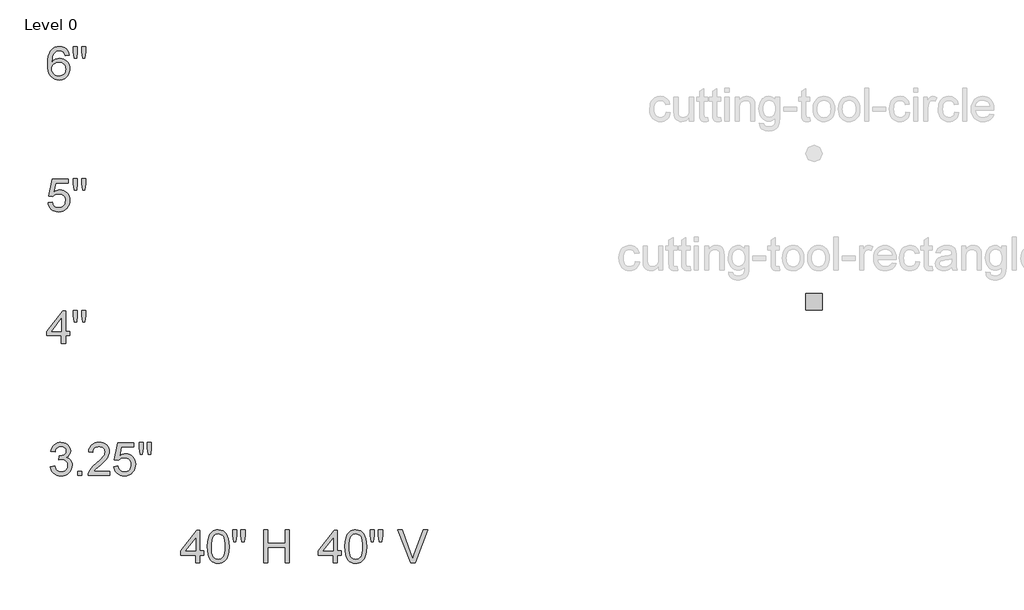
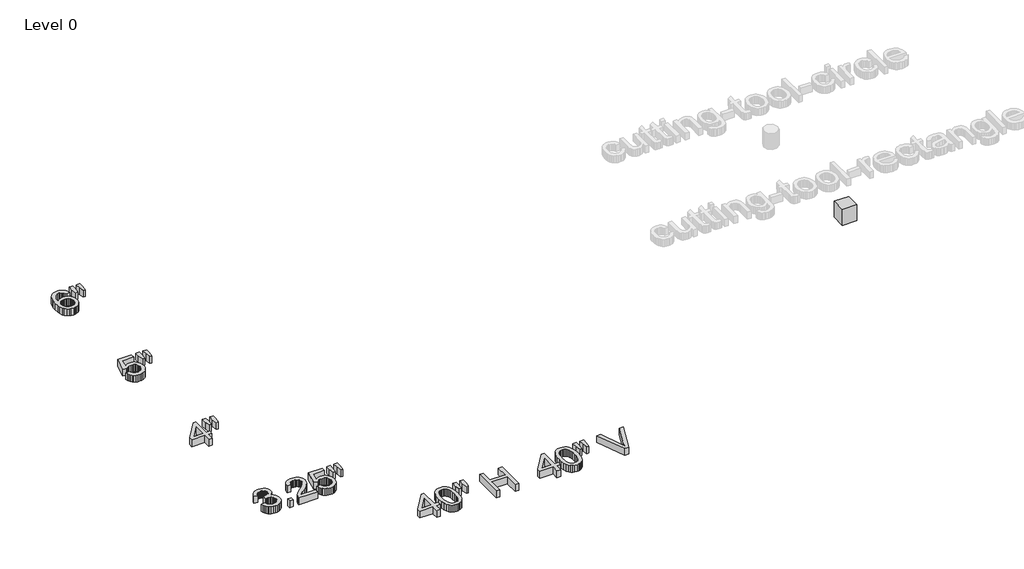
# One storey, part 1 of 3: 7 proxies.
"""IFC4 building model written with IfcOpenShell, lengths in millimetres."""

import ifcopenshell
import ifcopenshell.guid

model = None  # the IFC model being written
_history = None  # IfcOwnerHistory: only IFC2X3 demands one
_inside = {}  # id of a spatial element -> (the spatial element, [elements in it])
_under = {}  # id of a project, library or spatial element -> (it, [spatial elements below it])
_declared = {}  # id of a project -> (the project, [libraries it declares])
_typed = {}  # id of a type object -> (the type object, [elements of that type])
_made_of = {}  # id of a material, layer set ... -> (it, [elements and type objects made of it])


def new_model(schema):
    """Start an empty IFC model of exactly this schema.

    Asked for "IFC4X3", IfcOpenShell would pick the latest addendum, in which some entities
    have other attributes; the version numbers below select the first issue.
    IFC2X3 requires an IfcOwnerHistory on every rooted entity: one is made here for all.
    """
    global model, _history
    if schema == "IFC4X3":
        model = ifcopenshell.file(schema_version=(4, 3, 0, 0))
    else:
        model = ifcopenshell.file(schema=schema)
    _inside.clear()
    _under.clear()
    _declared.clear()
    _typed.clear()
    _made_of.clear()
    _history = None
    if model.schema == "IFC2X3":
        org = make("IfcOrganization", Name="unknown")
        user = make(
            "IfcPersonAndOrganization",
            ThePerson=make("IfcPerson", FamilyName="unknown"),
            TheOrganization=org,
        )
        app = make(
            "IfcApplication",
            ApplicationDeveloper=org,
            Version="unknown",
            ApplicationFullName="unknown",
            ApplicationIdentifier="unknown",
        )
        _history = make(
            "IfcOwnerHistory",
            OwningUser=user,
            OwningApplication=app,
            ChangeAction="ADDED",
            CreationDate=0,
        )
    return model


def make(cls, **values):
    """One entity of the class cls with the attributes given. An attribute that is None is left unset."""
    return model.create_entity(
        cls, **{name: value for name, value in values.items() if value is not None}
    )


def rooted(cls, **values):
    """An entity with a GlobalId (a new one), such as an element, a storey or a relation."""
    return make(cls, GlobalId=ifcopenshell.guid.new(), OwnerHistory=_history, **values)


def si_unit(unit_type, name, prefix=None):
    """IfcSIUnit, for example si_unit("LENGTHUNIT", "METRE", prefix="MILLI")."""
    return make("IfcSIUnit", UnitType=unit_type, Prefix=prefix, Name=name)


def assignment(units):
    """IfcUnitAssignment: the units of a project."""
    return None if units is None else make("IfcUnitAssignment", Units=units)


def point(xyz):
    """IfcCartesianPoint."""
    return None if xyz is None else make("IfcCartesianPoint", Coordinates=xyz)


def direction(xyz):
    """IfcDirection."""
    return None if xyz is None else make("IfcDirection", DirectionRatios=xyz)


def frame(location, z_axis=None, x_axis=None):
    """IfcAxis2Placement3D, a coordinate frame: its origin and axes. An axis left out is left unset."""
    return make(
        "IfcAxis2Placement3D",
        Location=point(location),
        Axis=direction(z_axis),
        RefDirection=direction(x_axis),
    )


def origin():
    """The frame at (0, 0, 0) with its axes left unset."""
    return frame((0.0, 0.0, 0.0))


def origin_with_axes():
    """The frame at (0, 0, 0) with the z axis (0, 0, 1) and the x axis (1, 0, 0) written out."""
    return frame((0.0, 0.0, 0.0), z_axis=(0.0, 0.0, 1.0), x_axis=(1.0, 0.0, 0.0))


def place(relative_to, where):
    """IfcLocalPlacement: puts the frame where relative to a parent placement (None: the world)."""
    return make(
        "IfcLocalPlacement", PlacementRelTo=relative_to, RelativePlacement=where
    )


def context(
    kind, dimensions, precision=None, world=None, true_north=None, identifier=None
):
    """IfcGeometricRepresentationContext, for example the 3D "Model" context."""
    return make(
        "IfcGeometricRepresentationContext",
        ContextIdentifier=identifier,
        ContextType=kind,
        CoordinateSpaceDimension=dimensions,
        Precision=precision,
        WorldCoordinateSystem=world,
        TrueNorth=true_north,
    )


def project(units=None, contexts=None):
    """IfcProject with its units and contexts."""
    return rooted(
        "IfcProject",
        Name="project",
        RepresentationContexts=contexts,
        UnitsInContext=assignment(units),
    )


def spatial(cls, under=None, at=None, **own):
    """A site, building, storey or space (cls), placed at a placement, below another one or the project."""
    s = rooted(cls, ObjectPlacement=at, **own)
    if under is not None:
        _under.setdefault(under.id(), (under, []))[1].append(s)
    return s


def polyline(points):
    """IfcPolyline through the points."""
    return make("IfcPolyline", Points=[point(p) for p in points])


def outline(outer, holes=None, kind="AREA"):
    """IfcArbitraryClosedProfileDef: a profile drawn as a closed curve; with holes, ...WithVoids."""
    if holes is None:
        return make("IfcArbitraryClosedProfileDef", ProfileType=kind, OuterCurve=outer)
    return make(
        "IfcArbitraryProfileDefWithVoids",
        ProfileType=kind,
        OuterCurve=outer,
        InnerCurves=holes,
    )


def extrude(swept, where, along, depth):
    """IfcExtrudedAreaSolid: the profile swept, set in the frame where, extruded along a direction by depth."""
    return make(
        "IfcExtrudedAreaSolid",
        SweptArea=swept,
        Position=where,
        ExtrudedDirection=direction(along),
        Depth=depth,
    )


def shape(context_of_items, identifier, shape_type, items):
    """IfcShapeRepresentation: the items that make up one representation, for example the "Body"."""
    return make(
        "IfcShapeRepresentation",
        ContextOfItems=context_of_items,
        RepresentationIdentifier=identifier,
        RepresentationType=shape_type,
        Items=items,
    )


def source(mapping_origin, context_of_items, identifier, shape_type, items):
    """IfcRepresentationMap: a shape defined once, which mapped items show again and again."""
    return make(
        "IfcRepresentationMap",
        MappingOrigin=mapping_origin,
        MappedRepresentation=shape(context_of_items, identifier, shape_type, items),
    )


def transform(
    local_origin,
    x_axis=None,
    y_axis=None,
    z_axis=None,
    scale=None,
    scale2=None,
    scale3=None,
    uniform=True,
):
    """IfcCartesianTransformationOperator3D, or its non-uniform kind. x_axis, y_axis, z_axis: its Axis1, 2, 3."""
    if uniform:
        return make(
            "IfcCartesianTransformationOperator3D",
            Axis1=direction(x_axis),
            Axis2=direction(y_axis),
            LocalOrigin=point(local_origin),
            Scale=scale,
            Axis3=direction(z_axis),
        )
    return make(
        "IfcCartesianTransformationOperator3DnonUniform",
        Axis1=direction(x_axis),
        Axis2=direction(y_axis),
        LocalOrigin=point(local_origin),
        Scale=scale,
        Axis3=direction(z_axis),
        Scale2=scale2,
        Scale3=scale3,
    )


def mapped(mapping_source, mapping_target):
    """IfcMappedItem: shows the shape of a source again, moved by a transform."""
    return make(
        "IfcMappedItem", MappingSource=mapping_source, MappingTarget=mapping_target
    )


def made_of(thing, what):
    """Note that an element or type object is made of a material, layer set ...; save() writes the relation."""
    if what is not None:
        _made_of.setdefault(what.id(), (what, []))[1].append(thing)
    return thing


def element(
    cls,
    number,
    at=None,
    inside=None,
    cuts=None,
    type_object=None,
    material=None,
    context=None,
    identifier="Body",
    shape_type=None,
    held_by="IfcProductDefinitionShape",
    body=None,
    shapes=None,
    **own,
):
    """One element of the class cls, such as IfcWall. Its Tag is "e" and its number.

    at: its placement. inside: the storey or other place that contains it. cuts: it is an
    opening in that element (IfcRelVoidsElement). A single representation is given by context,
    identifier, shape_type and body (its items); several are given by shapes. held_by: the class
    of the entity that holds the representations. save() writes the other relations.
    """
    e = rooted(cls, Tag="e%d" % number, ObjectPlacement=at, **own)
    if body is not None:
        shapes = [shape(context, identifier, shape_type, body)]
    if shapes is not None:
        e.Representation = make(held_by, Representations=shapes)
    if inside is not None:
        _inside.setdefault(inside.id(), (inside, []))[1].append(e)
    if cuts is not None:
        rooted(
            "IfcRelVoidsElement", RelatingBuildingElement=cuts, RelatedOpeningElement=e
        )
    if type_object is not None:
        _typed.setdefault(type_object.id(), (type_object, []))[1].append(e)
    return made_of(e, material)


def aggregate(whole, parts):
    """IfcRelAggregates: a whole, such as a stair, and the parts it consists of."""
    return rooted("IfcRelAggregates", RelatingObject=whole, RelatedObjects=parts)


def save(model, path):
    """Write the relations noted so far, then the file.

    IfcRelAggregates (storeys below a building ...), IfcRelContainedInSpatialStructure (elements
    in a storey), IfcRelDefinesByType, IfcRelAssociatesMaterial and IfcRelDeclares: one each for
    every whole, place, type object, material and project.
    """
    for whole, parts in _under.values():
        aggregate(whole, parts)
    for where, things in _inside.values():
        rooted(
            "IfcRelContainedInSpatialStructure",
            RelatedElements=things,
            RelatingStructure=where,
        )
    for kind, things in _typed.values():
        rooted("IfcRelDefinesByType", RelatedObjects=things, RelatingType=kind)
    for what, things in _made_of.values():
        rooted("IfcRelAssociatesMaterial", RelatedObjects=things, RelatingMaterial=what)
    for by, libraries in _declared.values():
        rooted("IfcRelDeclares", RelatingContext=by, RelatedDefinitions=libraries)
    model.write(path)


def kingspan_ks_cutting_tool_rectangle_cutting_tool_rectangle_f435e5aa(model_context):
    return source(origin(), model_context, "Body", "SweptSolid", [
        extrude(outline(polyline([(152.4, 152.4), (152.4, -152.4), (-152.4, -152.4), (-152.4, 152.4), (152.4, 152.4)])), frame((0.0, 0.0, -254.0), z_axis=(0.0, 0.0, 1.0), x_axis=(1.0, 0.0, 0.0)), (0.0, 0.0, 1.0), 355.6),
    ])


model = new_model("IFC4")

# Units and contexts
model_context = context("Model", 3, world=origin())
ifc_project = project(units=[si_unit("LENGTHUNIT", "METRE", prefix="MILLI")], contexts=[model_context])

# Site, building, storey
site = spatial("IfcSite", under=ifc_project)
building = spatial("IfcBuilding", under=site)
storey = spatial("IfcBuildingStorey", under=building, Name="Level 0", Elevation=0.0)

# Proxies
placement = place(None, origin())
element("IfcBuildingElementProxy", 1, Name="24\" Arial", ObjectType="24\" Arial", at=placement, inside=storey, context=model_context, shape_type="SweptSolid", body=[
    extrude(outline(polyline([(-11790.2706259, 6439.2322072), (-11714.1288524, 6448.7499289), (-11697.0824641, 6400.9010702), (-11685.5896293, 6382.8043865), (-11672.117034, 6368.5928665), (-11656.3579547, 6357.8575457), (-11638.0056681, 6350.1894594), (-11617.0601742, 6345.5886076), (-11593.5214728, 6344.0549903), (-11565.9349514, 6346.1648759), (-11541.3227179, 6352.4945326), (-11519.6847725, 6363.0439604), (-11501.0211152, 6377.8131594), (-11485.991666, 6395.6960662), (-11475.2563451, 6415.5866174), (-11468.8151526, 6437.484813), (-11466.6680884, 6461.390653), (-11468.7965633, 6484.1578984), (-11475.1819879, 6504.8710261), (-11485.8243623, 6523.5300362), (-11500.7236864, 6540.1349286), (-11518.9040219, 6553.7655329), (-11539.3894307, 6563.5016789), (-11562.1799127, 6569.3433665), (-11587.275468, 6571.2905957), (-11611.3300224, 6569.208594), (-11640.6639381, 6562.9625892), (-11632.1872172, 6639.1043627), (-11619.9926363, 6638.2120763), (-11574.3744936, 6643.6773305), (-11533.5895691, 6660.0730933), (-11516.803431, 6672.4721565), (-11504.8133324, 6687.8083291), (-11497.6192732, 6706.0816112), (-11495.2212535, 6727.2920027), (-11496.9593531, 6744.510342), (-11502.1736518, 6760.1764747), (-11510.8641496, 6774.2904009), (-11523.0308466, 6786.8521205), (-11537.9394653, 6797.1645348), (-11554.8557285, 6804.5305449), (-11573.779636, 6808.9501511), (-11594.711188, 6810.4233531), (-11615.5869721, 6808.9362091), (-11634.6410048, 6804.474777), (-11651.8732861, 6797.039057), (-11667.2838159, 6786.6290489), (-11680.4915137, 6773.2447528), (-11691.1152987, 6756.8861686), (-11699.1551711, 6737.5532964), (-11704.6111307, 6715.2461362), (-11780.7529042, 6724.7638579), (-11771.727799, 6761.1152344), (-11758.3342082, 6793.1353039), (-11740.5721319, 6820.8240666), (-11718.44157, 6844.1815222), (-11692.6396214, 6862.7243491), (-11663.8633847, 6875.9692255), (-11632.11286, 6883.9161513), (-11597.3880473, 6886.5651266), (-11549.5205993, 6881.3415333), (-11505.5569044, 6865.6707532), (-11468.4898399, 6840.946984), (-11441.312283, 6808.5644231), (-11424.6376807, 6771.2556976), (-11419.07948, 6731.7534348), (-11424.3588412, 6694.9466204), (-11440.196925, 6661.5602373), (-11466.3706596, 6633.118608), (-11502.6569736, 6611.1460552), (-11477.2825788, 6603.2084241), (-11454.9940079, 6591.8875402), (-11435.7912608, 6577.1834038), (-11419.6743376, 6559.0960147), (-11406.9220777, 6538.0715162), (-11397.8133206, 6514.5560515), (-11392.3480663, 6488.5496206), (-11390.5263149, 6460.0522234), (-11394.1698178, 6421.4236576), (-11405.1003263, 6385.8437371), (-11423.3178404, 6353.3124618), (-11448.8223603, 6323.8298317), (-11479.8943755, 6299.3663127), (-11514.8143759, 6281.8923705), (-11553.5823614, 6271.4080052), (-11596.1983321, 6267.9132168), (-11634.715362, 6270.8967995), (-11669.8119607, 6279.8475475), (-11701.4881282, 6294.7654609), (-11729.7438645, 6315.6505396), (-11753.4359276, 6341.2758899), (-11771.4210755, 6370.414618), (-11783.6993083, 6403.0667237), (-11790.2706259, 6439.2322072)])), origin_with_axes(), (0.0, 0.0, 1.0), 152.4),
    extrude(outline(polyline([(-11285.8313763, 6277.4309385), (-11285.8313763, 6353.572712), (-11209.6896028, 6353.572712), (-11209.6896028, 6277.4309385), (-11285.8313763, 6277.4309385)])), origin_with_axes(), (0.0, 0.0, 1.0), 152.4),
    extrude(outline(polyline([(-10695.7326316, 6353.572712), (-10695.7326316, 6277.4309385), (-11095.4769425, 6277.4309385), (-11093.8039055, 6304.2367093), (-11087.2976505, 6329.9271222), (-11068.5224573, 6370.9537077), (-11041.0474716, 6410.7533993), (-11001.3035479, 6452.412021), (-10945.7215403, 6499.0153966), (-10863.5568336, 6571.9969891), (-10814.2580095, 6625.868781), (-10799.8791858, 6647.8785124), (-10789.6085975, 6669.590815), (-10783.4462445, 6691.0056888), (-10781.3921268, 6712.1231338), (-10783.3300613, 6731.9904483), (-10789.143865, 6750.2497884), (-10798.8335377, 6766.9011541), (-10812.3990795, 6781.9445452), (-10829.0876237, 6794.4040237), (-10848.1463037, 6803.3036511), (-10869.5751195, 6808.6434276), (-10893.374071, 6810.4233531), (-10918.4463896, 6808.6852535), (-10940.869733, 6803.4709548), (-10960.644101, 6794.780457), (-10977.7694938, 6782.61376), (-10991.6231698, 6767.3798285), (-11001.5823874, 6749.4876271), (-11007.6471465, 6728.9371558), (-11009.8174473, 6705.7284145), (-11085.9592209, 6715.2461362), (-11079.4111399, 6754.5532114), (-11067.5000458, 6788.8969435), (-11050.2259386, 6818.2773324), (-11027.5888183, 6842.6943782), (-11000.1091853, 6861.8878306), (-10968.30754, 6875.5974395), (-10932.1838825, 6883.8232048), (-10891.7382126, 6886.5651266), (-10850.9300514, 6883.5164814), (-10814.6112062, 6874.3705457), (-10782.781677, 6859.1273196), (-10755.4414637, 6837.786803), (-10733.4828529, 6811.9290864), (-10717.7981309, 6783.1342604), (-10708.3872977, 6751.402325), (-10705.2503533, 6716.7332802), (-10708.6336059, 6680.3168412), (-10718.7833638, 6644.5324383), (-10736.7963957, 6608.1345886), (-10763.7694702, 6569.8778088), (-10806.7665215, 6524.2038983), (-10872.8514836, 6465.5546563), (-10960.4442661, 6392.3128136), (-10994.7972928, 6353.572712), (-10695.7326316, 6353.572712)])), origin_with_axes(), (0.0, 0.0, 1.0), 152.4),
    extrude(outline(polyline([(-10619.5908581, 6439.2322072), (-10543.4490845, 6448.7499289), (-10537.7607587, 6424.2724679), (-10529.4699308, 6403.0388398), (-10518.5766009, 6385.0490445), (-10505.080769, 6370.3030822), (-10489.010319, 6358.819542), (-10470.3931349, 6350.6170133), (-10449.2292166, 6345.6954961), (-10425.5185642, 6344.0549903), (-10396.519256, 6346.3368269), (-10370.9403789, 6353.1823367), (-10348.7819331, 6364.5915197), (-10330.0439185, 6380.5643759), (-10315.1445944, 6400.31086), (-10304.5022201, 6423.0409268), (-10298.1167955, 6448.7545762), (-10295.9883206, 6477.4518084), (-10297.9820231, 6504.5735973), (-10303.9631304, 6528.6839196), (-10313.9316426, 6549.7827753), (-10327.8875597, 6567.8701644), (-10345.877355, 6582.3791132), (-10367.9475016, 6592.7426481), (-10394.0979996, 6598.960769), (-10424.328849, 6601.0334759), (-10461.2657885, 6597.7245805), (-10491.1759724, 6587.7978942), (-10515.0632232, 6572.5918467), (-10533.9313629, 6553.4448675), (-10610.0731364, 6562.9625892), (-10543.4490845, 6877.0474049), (-10248.3997122, 6877.0474049), (-10248.3997122, 6800.9056314), (-10481.8813224, 6800.9056314), (-10514.4497763, 6633.1557866), (-10487.5789429, 6652.4143016), (-10460.057484, 6666.1703837), (-10431.8853995, 6674.424033), (-10403.0626896, 6677.1752494), (-10365.9816831, 6673.7641129), (-10331.9214378, 6663.5307031), (-10300.8819539, 6646.4750202), (-10272.8632312, 6622.5970641), (-10249.6684319, 6593.356095), (-10233.1007181, 6560.2113727), (-10223.1600898, 6523.1628975), (-10219.8465471, 6482.2106692), (-10222.8301298, 6442.7641742), (-10231.7808778, 6406.0688957), (-10246.6987912, 6372.1248336), (-10267.5838699, 6340.9319879), (-10299.2228588, 6308.9862755), (-10336.141209, 6286.1679096), (-10378.3389204, 6272.47689), (-10425.815993, 6267.9132168), (-10465.1091263, 6270.8456789), (-10500.6007476, 6279.6430652), (-10532.2908571, 6294.3053757), (-10560.1794547, 6314.8326104), (-10583.3835486, 6340.2023578), (-10601.0201472, 6369.3922064), (-10613.0892503, 6402.4021562), (-10619.5908581, 6439.2322072)])), origin_with_axes(), (0.0, 0.0, 1.0), 152.4),
    extrude(outline(polyline([(-10134.6331951, 6667.6575278), (-10153.2224953, 6785.2906193), (-10153.2224953, 6886.5651266), (-10077.0807217, 6886.5651266), (-10077.0807217, 6785.2906193), (-10093.7367347, 6667.6575278), (-10134.6331951, 6667.6575278)])), origin_with_axes(), (0.0, 0.0, 1.0), 152.4),
    extrude(outline(polyline([(-9982.7957913, 6667.6575278), (-10000.9389482, 6785.2906193), (-10000.9389482, 6886.5651266), (-9924.7971747, 6886.5651266), (-9924.7971747, 6785.2906193), (-9942.6429029, 6667.6575278), (-9982.7957913, 6667.6575278)])), origin_with_axes(), (0.0, 0.0, 1.0), 152.4),
])
element("IfcBuildingElementProxy", 2, Name="24\" Arial", ObjectType="24\" Arial", at=placement, inside=storey, context=model_context, shape_type="SweptSolid", body=[
    extrude(outline(polyline([(-11586.8414764, 8718.7933489), (-11586.8414764, 8861.5591742), (-11862.8554054, 8861.5591742), (-11862.8554054, 8937.7009477), (-11567.8060331, 9318.4098153), (-11510.6997029, 9318.4098153), (-11510.6997029, 8937.7009477), (-11434.5579294, 8937.7009477), (-11434.5579294, 8861.5591742), (-11510.6997029, 8861.5591742), (-11510.6997029, 8718.7933489), (-11586.8414764, 8718.7933489)]), holes=[polyline([(-11586.8414764, 8937.7009477), (-11586.8414764, 9172.9671308), (-11769.1653326, 8937.7009477), (-11586.8414764, 8937.7009477)])]), origin_with_axes(), (0.0, 0.0, 1.0), 152.4),
    extrude(outline(polyline([(-11349.3445774, 9109.0199381), (-11367.9338776, 9226.6530297), (-11367.9338776, 9327.927537), (-11291.7921041, 9327.927537), (-11291.7921041, 9226.6530297), (-11308.448117, 9109.0199381), (-11349.3445774, 9109.0199381)])), origin_with_axes(), (0.0, 0.0, 1.0), 152.4),
    extrude(outline(polyline([(-11197.5071736, 9109.0199381), (-11215.6503305, 9226.6530297), (-11215.6503305, 9327.927537), (-11139.508557, 9327.927537), (-11139.508557, 9226.6530297), (-11157.3542852, 9109.0199381), (-11197.5071736, 9109.0199381)])), origin_with_axes(), (0.0, 0.0, 1.0), 152.4),
])
element("IfcBuildingElementProxy", 3, Name="24\" Arial", ObjectType="24\" Arial", at=placement, inside=storey, context=model_context, shape_type="SweptSolid", body=[
    extrude(outline(polyline([(-9111.1054643, 4661.5448347), (-9111.1054643, 4804.3106601), (-9387.1193933, 4804.3106601), (-9387.1193933, 4880.4524336), (-9092.0700209, 5261.1613012), (-9034.9636908, 5261.1613012), (-9034.9636908, 4880.4524336), (-8958.8219173, 4880.4524336), (-8958.8219173, 4804.3106601), (-9034.9636908, 4804.3106601), (-9034.9636908, 4661.5448347), (-9111.1054643, 4661.5448347)]), holes=[polyline([(-9111.1054643, 4880.4524336), (-9111.1054643, 5115.7186166), (-9293.4293204, 4880.4524336), (-9111.1054643, 4880.4524336)])]), origin_with_axes(), (0.0, 0.0, 1.0), 152.4),
    extrude(outline(polyline([(-8892.1978655, 4961.2043536), (-8886.6024861, 5058.705233), (-8879.6082619, 5100.0524839), (-8869.816348, 5136.4642756), (-8857.2685704, 5168.2380369), (-8842.006755, 5195.6711967), (-8824.0309017, 5218.7637548), (-8803.3410106, 5237.5157114), (-8779.8673718, 5252.0246601), (-8753.5402754, 5262.388195), (-8724.3597215, 5268.6063159), (-8692.32571, 5270.6790229), (-8645.4063163, 5265.7714476), (-8603.3944979, 5251.0487219), (-8568.2607206, 5227.087114), (-8541.9754502, 5194.4628921), (-8522.1220776, 5153.454896), (-8506.2839938, 5104.3419649), (-8495.9111643, 5041.9748628), (-8492.4535545, 4961.2043536), (-8497.9931659, 4864.2611531), (-8504.9176803, 4823.053322), (-8514.6120003, 4786.6880035), (-8527.0621841, 4754.9003002), (-8542.2542897, 4727.4253146), (-8560.188317, 4704.2630465), (-8580.8642661, 4685.4134962), (-8604.3657889, 4670.8069535), (-8630.7765371, 4660.3737088), (-8660.0965108, 4654.113762), (-8692.32571, 4652.027113), (-8734.2631712, 4655.6520266), (-8771.4417715, 4666.5267672), (-8803.861511, 4684.6513348), (-8831.5223897, 4710.0257296), (-8858.0679103, 4755.8948278), (-8877.0289965, 4813.0476312), (-8888.4056482, 4881.4841398), (-8892.1978655, 4961.2043536)]), holes=[polyline([(-8816.0560919, 4961.353068), (-8813.8253759, 4895.1612174), (-8807.1332279, 4841.5822069), (-8795.9796477, 4800.6160367), (-8780.3646356, 4772.2627066), (-8761.4779066, 4752.9716603), (-8740.509176, 4739.1923416), (-8717.4584438, 4730.9247503), (-8692.32571, 4728.1688866), (-8667.1929761, 4730.934045), (-8644.1422439, 4739.2295202), (-8623.1735133, 4753.0553122), (-8604.2867843, 4772.411421), (-8588.6717722, 4800.8112243), (-8577.5181921, 4841.7680999), (-8570.826044, 4895.2820478), (-8568.595328, 4961.353068), (-8570.7516868, 5025.792877), (-8577.2207633, 5078.4284805), (-8588.0025574, 5119.2598783), (-8603.0970691, 5148.2870705), (-8621.66778, 5168.5215238), (-8642.8781715, 5182.9747046), (-8666.7282436, 5191.6466132), (-8693.2179964, 5194.5372494), (-8718.2206051, 5191.9905152), (-8740.880962, 5184.3503129), (-8761.1990671, 5171.6166422), (-8779.1749204, 5153.7895034), (-8795.3104329, 5122.1876931), (-8806.835799, 5079.5810171), (-8813.7510187, 5025.9694754), (-8816.0560919, 4961.353068)])]), origin_with_axes(), (0.0, 0.0, 1.0), 152.4),
    extrude(outline(polyline([(-8407.2402025, 5051.771424), (-8425.8295027, 5169.4045155), (-8425.8295027, 5270.6790229), (-8349.6877291, 5270.6790229), (-8349.6877291, 5169.4045155), (-8366.3437421, 5051.771424), (-8407.2402025, 5051.771424)])), origin_with_axes(), (0.0, 0.0, 1.0), 152.4),
    extrude(outline(polyline([(-8255.4027987, 5051.771424), (-8273.5459556, 5169.4045155), (-8273.5459556, 5270.6790229), (-8197.4041821, 5270.6790229), (-8197.4041821, 5169.4045155), (-8215.2499103, 5051.771424), (-8255.4027987, 5051.771424)])), origin_with_axes(), (0.0, 0.0, 1.0), 152.4),
    extrude(outline(polyline([(-7854.7662013, 4661.5448347), (-7854.7662013, 5270.6790229), (-7778.6244278, 5270.6790229), (-7778.6244278, 5023.2182589), (-7455.0218903, 5023.2182589), (-7455.0218903, 5270.6790229), (-7378.8801168, 5270.6790229), (-7378.8801168, 4661.5448347), (-7455.0218903, 4661.5448347), (-7455.0218903, 4947.0764854), (-7778.6244278, 4947.0764854), (-7778.6244278, 4661.5448347), (-7854.7662013, 4661.5448347)])), origin_with_axes(), (0.0, 0.0, 1.0), 152.4),
])
element("IfcBuildingElementProxy", 4, Name="24\" Arial", ObjectType="24\" Arial", at=placement, inside=storey, context=model_context, shape_type="SweptSolid", body=[
    extrude(outline(polyline([(-6571.1054643, 4661.5448347), (-6571.1054643, 4804.3106601), (-6847.1193933, 4804.3106601), (-6847.1193933, 4880.4524336), (-6552.0700209, 5261.1613012), (-6494.9636908, 5261.1613012), (-6494.9636908, 4880.4524336), (-6418.8219173, 4880.4524336), (-6418.8219173, 4804.3106601), (-6494.9636908, 4804.3106601), (-6494.9636908, 4661.5448347), (-6571.1054643, 4661.5448347)]), holes=[polyline([(-6571.1054643, 4880.4524336), (-6571.1054643, 5115.7186166), (-6753.4293204, 4880.4524336), (-6571.1054643, 4880.4524336)])]), origin_with_axes(), (0.0, 0.0, 1.0), 152.4),
    extrude(outline(polyline([(-6352.1978655, 4961.2043536), (-6346.6024861, 5058.705233), (-6339.6082619, 5100.0524839), (-6329.816348, 5136.4642756), (-6317.2685704, 5168.2380369), (-6302.006755, 5195.6711967), (-6284.0309017, 5218.7637548), (-6263.3410106, 5237.5157114), (-6239.8673718, 5252.0246601), (-6213.5402754, 5262.388195), (-6184.3597215, 5268.6063159), (-6152.32571, 5270.6790229), (-6105.4063163, 5265.7714476), (-6063.3944979, 5251.0487219), (-6028.2607206, 5227.087114), (-6001.9754502, 5194.4628921), (-5982.1220776, 5153.454896), (-5966.2839938, 5104.3419649), (-5955.9111643, 5041.9748628), (-5952.4535545, 4961.2043536), (-5957.9931659, 4864.2611531), (-5964.9176803, 4823.053322), (-5974.6120003, 4786.6880035), (-5987.0621841, 4754.9003002), (-6002.2542897, 4727.4253146), (-6020.188317, 4704.2630465), (-6040.8642661, 4685.4134962), (-6064.3657889, 4670.8069535), (-6090.7765371, 4660.3737088), (-6120.0965108, 4654.113762), (-6152.32571, 4652.027113), (-6194.2631712, 4655.6520266), (-6231.4417715, 4666.5267672), (-6263.861511, 4684.6513348), (-6291.5223897, 4710.0257296), (-6318.0679103, 4755.8948278), (-6337.0289965, 4813.0476312), (-6348.4056482, 4881.4841398), (-6352.1978655, 4961.2043536)]), holes=[polyline([(-6276.0560919, 4961.353068), (-6273.8253759, 4895.1612174), (-6267.1332279, 4841.5822069), (-6255.9796477, 4800.6160367), (-6240.3646356, 4772.2627066), (-6221.4779066, 4752.9716603), (-6200.509176, 4739.1923416), (-6177.4584438, 4730.9247503), (-6152.32571, 4728.1688866), (-6127.1929761, 4730.934045), (-6104.1422439, 4739.2295202), (-6083.1735133, 4753.0553122), (-6064.2867843, 4772.411421), (-6048.6717722, 4800.8112243), (-6037.5181921, 4841.7680999), (-6030.826044, 4895.2820478), (-6028.595328, 4961.353068), (-6030.7516868, 5025.792877), (-6037.2207633, 5078.4284805), (-6048.0025574, 5119.2598783), (-6063.0970691, 5148.2870705), (-6081.66778, 5168.5215238), (-6102.8781715, 5182.9747046), (-6126.7282436, 5191.6466132), (-6153.2179964, 5194.5372494), (-6178.2206051, 5191.9905152), (-6200.880962, 5184.3503129), (-6221.1990671, 5171.6166422), (-6239.1749204, 5153.7895034), (-6255.3104329, 5122.1876931), (-6266.835799, 5079.5810171), (-6273.7510187, 5025.9694754), (-6276.0560919, 4961.353068)])]), origin_with_axes(), (0.0, 0.0, 1.0), 152.4),
    extrude(outline(polyline([(-5867.2402025, 5051.771424), (-5885.8295027, 5169.4045155), (-5885.8295027, 5270.6790229), (-5809.6877291, 5270.6790229), (-5809.6877291, 5169.4045155), (-5826.3437421, 5051.771424), (-5867.2402025, 5051.771424)])), origin_with_axes(), (0.0, 0.0, 1.0), 152.4),
    extrude(outline(polyline([(-5715.4027987, 5051.771424), (-5733.5459556, 5169.4045155), (-5733.5459556, 5270.6790229), (-5657.4041821, 5270.6790229), (-5657.4041821, 5169.4045155), (-5675.2499103, 5051.771424), (-5715.4027987, 5051.771424)])), origin_with_axes(), (0.0, 0.0, 1.0), 152.4),
    extrude(outline(polyline([(-5134.8217756, 4661.5448347), (-5377.2262499, 5270.6790229), (-5295.7307579, 5270.6790229), (-5133.483346, 4831.8228243), (-5100.6174633, 4732.9277474), (-5068.1977238, 4831.8228243), (-4905.5041686, 5270.6790229), (-4824.0086767, 5270.6790229), (-5056.1518572, 4661.5448347), (-5134.8217756, 4661.5448347)])), origin_with_axes(), (0.0, 0.0, 1.0), 152.4),
])
element("IfcBuildingElementProxy", 5, Name="24\" Arial", ObjectType="24\" Arial", at=placement, inside=storey, context=model_context, shape_type="SweptSolid", body=[
    extrude(outline(polyline([(-11834.3022404, 11318.9946176), (-11758.1604669, 11328.5123393), (-11752.472141, 11304.0348783), (-11744.1813131, 11282.8012502), (-11733.2879832, 11264.8114549), (-11719.7921513, 11250.0654925), (-11703.7217013, 11238.5819524), (-11685.1045172, 11230.3794237), (-11663.9405989, 11225.4579064), (-11640.2299465, 11223.8174007), (-11611.2306383, 11226.0992373), (-11585.6517612, 11232.9447471), (-11563.4933154, 11244.3539301), (-11544.7553008, 11260.3267862), (-11529.8559768, 11280.0732704), (-11519.2136024, 11302.8033371), (-11512.8281778, 11328.5169866), (-11510.6997029, 11357.2142188), (-11512.6934054, 11384.3360077), (-11518.6745127, 11408.44633), (-11528.6430249, 11429.5451857), (-11542.598942, 11447.6325748), (-11560.5887373, 11462.1415236), (-11582.6588839, 11472.5050584), (-11608.8093819, 11478.7231794), (-11639.0402313, 11480.7958863), (-11675.9771708, 11477.4869909), (-11705.8873548, 11467.5603046), (-11729.7746055, 11452.3542571), (-11748.6427452, 11433.2072779), (-11824.7845187, 11442.7249996), (-11758.1604669, 11756.8098153), (-11463.1110945, 11756.8098153), (-11463.1110945, 11680.6680418), (-11696.5927047, 11680.6680418), (-11729.1611586, 11512.918197), (-11702.2903252, 11532.176712), (-11674.7688663, 11545.9327941), (-11646.5967818, 11554.1864434), (-11617.7740719, 11556.9376598), (-11580.6930654, 11553.5265233), (-11546.6328202, 11543.2931135), (-11515.5933362, 11526.2374306), (-11487.5746135, 11502.3594745), (-11464.3798142, 11473.1185053), (-11447.8121004, 11439.9737831), (-11437.8714722, 11402.9253079), (-11434.5579294, 11361.9730796), (-11437.5415121, 11322.5265846), (-11446.4922601, 11285.8313061), (-11461.4101735, 11251.887244), (-11482.2952523, 11220.6943983), (-11513.9342412, 11188.7486859), (-11550.8525913, 11165.93032), (-11593.0503027, 11152.2393004), (-11640.5273753, 11147.6756272), (-11679.8205086, 11150.6080893), (-11715.3121299, 11159.4054756), (-11747.0022394, 11174.0677861), (-11774.890837, 11194.5950208), (-11798.094931, 11219.9647682), (-11815.7315295, 11249.1546168), (-11827.8006326, 11282.1645666), (-11834.3022404, 11318.9946176)])), origin_with_axes(), (0.0, 0.0, 1.0), 152.4),
    extrude(outline(polyline([(-11349.3445774, 11547.4199381), (-11367.9338776, 11665.0530297), (-11367.9338776, 11766.327537), (-11291.7921041, 11766.327537), (-11291.7921041, 11665.0530297), (-11308.448117, 11547.4199381), (-11349.3445774, 11547.4199381)])), origin_with_axes(), (0.0, 0.0, 1.0), 152.4),
    extrude(outline(polyline([(-11197.5071736, 11547.4199381), (-11215.6503305, 11665.0530297), (-11215.6503305, 11766.327537), (-11139.508557, 11766.327537), (-11139.508557, 11665.0530297), (-11157.3542852, 11547.4199381), (-11197.5071736, 11547.4199381)])), origin_with_axes(), (0.0, 0.0, 1.0), 152.4),
])
element("IfcBuildingElementProxy", 6, Name="24\" Arial", ObjectType="24\" Arial", at=placement, inside=storey, context=model_context, shape_type="SweptSolid", body=[
    extrude(outline(polyline([(-11444.0756511, 14042.9262683), (-11520.2174246, 14033.4085466), (-11532.4863627, 14071.144826), (-11549.0680185, 14096.909596), (-11565.4358973, 14110.7679193), (-11583.6069382, 14120.6667216), (-11603.5811412, 14126.606003), (-11625.3585064, 14128.5857635), (-11660.7525339, 14123.9756171), (-11694.0645598, 14110.1451777), (-11722.6734928, 14081.0157443), (-11746.0402431, 14040.9186239), (-11755.1722368, 14015.3443942), (-11761.822559, 13984.202669), (-11767.6781885, 13905.2167326), (-11737.1359684, 13940.852421), (-11700.5336363, 13965.9665656), (-11659.9160154, 13980.856595), (-11617.3279287, 13985.8199381), (-11580.744186, 13982.4273909), (-11546.9860169, 13972.249749), (-11516.0534214, 13955.2870126), (-11487.9463995, 13931.5391816), (-11464.5889438, 13902.4190429), (-11447.9050469, 13869.3393833), (-11437.8947088, 13832.3002027), (-11434.5579294, 13791.3015011), (-11436.1287253, 13763.5430286), (-11440.8411129, 13736.7790837), (-11448.6950922, 13711.0096663), (-11459.6906632, 13686.2347765), (-11473.4374507, 13663.379232), (-11489.5450793, 13643.3678503), (-11508.013549, 13626.2006316), (-11528.8428599, 13611.8775758), (-11551.5868687, 13600.5892233), (-11575.7994321, 13592.5261143), (-11601.4805503, 13587.688249), (-11628.6302232, 13586.0756272), (-11674.0206469, 13590.3511662), (-11715.0147011, 13603.1777833), (-11751.6123859, 13624.5554785), (-11783.8137011, 13654.4842518), (-11810.0664403, 13694.2281756), (-11828.8183968, 13745.0513223), (-11840.0695707, 13806.9536919), (-11843.8199621, 13879.9352844), (-11839.6559588, 13961.7560891), (-11827.1639491, 14031.5867952), (-11806.3439329, 14089.4274027), (-11792.8109224, 14113.8514194), (-11777.1959102, 14135.2779116), (-11745.6033946, 14165.6621227), (-11708.9731786, 14187.3651306), (-11667.3052622, 14200.3869354), (-11620.5996456, 14204.727537), (-11585.5309308, 14202.0413831), (-11553.7897007, 14193.9829215), (-11525.3759554, 14180.5521521), (-11500.2896948, 14161.749075), (-11479.2094284, 14138.2057263), (-11462.8136657, 14110.5541423), (-11451.1024066, 14078.794323), (-11444.0756511, 14042.9262683)]), holes=[polyline([(-11767.6781885, 13792.4912163), (-11763.2725244, 13758.7516365), (-11750.055532, 13726.5363793), (-11729.5329446, 13698.838322), (-11703.2104955, 13678.6503421), (-11671.4413815, 13666.325636), (-11634.5787993, 13662.2174007), (-11608.1122832, 13664.3458756), (-11584.3319209, 13670.7313002), (-11563.2377125, 13681.3736745), (-11544.829658, 13696.2729986), (-11529.8978027, 13714.8251202), (-11519.2321917, 13736.425887), (-11512.8328251, 13761.075299), (-11510.6997029, 13788.7733563), (-11512.8049412, 13815.3885868), (-11519.1206559, 13839.0202347), (-11529.6468471, 13859.6682998), (-11544.3835148, 13877.3327823), (-11562.8473372, 13891.4838871), (-11584.5549925, 13901.5918191), (-11609.5064807, 13907.6565782), (-11637.7018017, 13909.6781646), (-11663.8151211, 13907.6565782), (-11687.8743229, 13901.5918191), (-11709.879407, 13891.4838871), (-11729.8303734, 13877.3327823), (-11746.3887925, 13859.9006661), (-11758.2162348, 13839.9496997), (-11765.3127001, 13817.4798831), (-11767.6781885, 13792.4912163)])]), origin_with_axes(), (0.0, 0.0, 1.0), 152.4),
    extrude(outline(polyline([(-11349.3445774, 13985.8199381), (-11367.9338776, 14103.4530297), (-11367.9338776, 14204.727537), (-11291.7921041, 14204.727537), (-11291.7921041, 14103.4530297), (-11308.448117, 13985.8199381), (-11349.3445774, 13985.8199381)])), origin_with_axes(), (0.0, 0.0, 1.0), 152.4),
    extrude(outline(polyline([(-11197.5071736, 13985.8199381), (-11215.6503305, 14103.4530297), (-11215.6503305, 14204.727537), (-11139.508557, 14204.727537), (-11139.508557, 14103.4530297), (-11157.3542852, 13985.8199381), (-11197.5071736, 13985.8199381)])), origin_with_axes(), (0.0, 0.0, 1.0), 152.4),
])
kingspan_ks_cutting_tool_rectangle_cutting_tool_rectangle_shape = kingspan_ks_cutting_tool_rectangle_cutting_tool_rectangle_f435e5aa(model_context)
element("IfcBuildingElementProxy", 7, Name="kingspan-ks-cutting-tool-rectangle : cutting-tool-rectangle", ObjectType="kingspan-ks-cutting-tool-rectangle : cutting-tool-rectangle", at=placement, inside=storey, context=model_context, shape_type="MappedRepresentation", body=[
    mapped(kingspan_ks_cutting_tool_rectangle_cutting_tool_rectangle_shape, transform((2312.2835798, 9489.727968, 0.0), x_axis=(1.0, 0.0, 0.0), y_axis=(0.0, 1.0, 0.0), z_axis=(0.0, 0.0, 1.0))),
])

save(model, "model.ifc")
